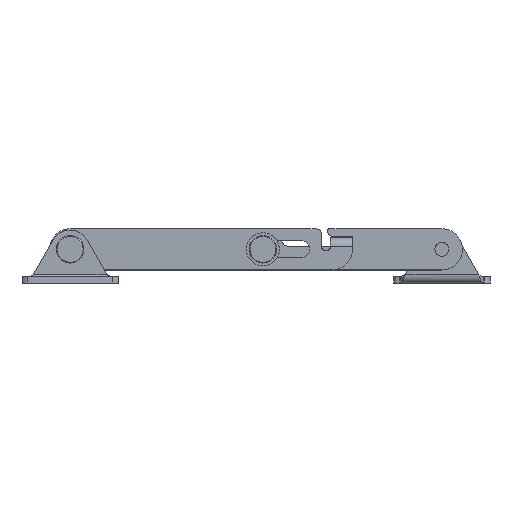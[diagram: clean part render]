
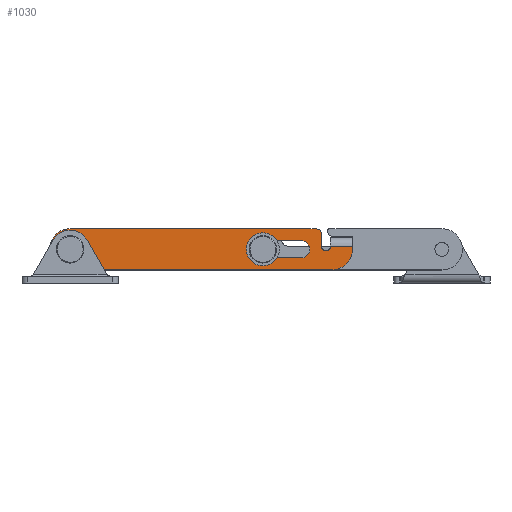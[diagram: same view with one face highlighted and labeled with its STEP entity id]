
A CAD part, top view. The second image highlights one B-rep face of the part: STEP entity #1030.
In plain terms, the highlighted planar face has unit normal (0, 0, 1).
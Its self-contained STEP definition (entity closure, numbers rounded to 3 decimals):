
#15 = VECTOR ( 'NONE', #1727, 1000. ) ;
#38 = LINE ( 'NONE', #2817, #1431 ) ;
#61 = ORIENTED_EDGE ( 'NONE', *, *, #3098, .T. ) ;
#67 = AXIS2_PLACEMENT_3D ( 'NONE', #2873, #1238, #3160 ) ;
#89 = CARTESIAN_POINT ( 'NONE',  ( 2.5, 0., 2.5 ) ) ;
#112 = CARTESIAN_POINT ( 'NONE',  ( 7.502, -102.5, 2.5 ) ) ;
#126 = CARTESIAN_POINT ( 'NONE',  ( -7.5, 0., 2.5 ) ) ;
#145 = DIRECTION ( 'NONE',  ( 0., 0., -1. ) ) ;
#150 = CARTESIAN_POINT ( 'NONE',  ( -7.5, -95., 2.5 ) ) ;
#189 = ORIENTED_EDGE ( 'NONE', *, *, #1532, .T. ) ;
#262 = CARTESIAN_POINT ( 'NONE',  ( 1.002, -94.5, 2.5 ) ) ;
#288 = CARTESIAN_POINT ( 'NONE',  ( 0., 0., 2.5 ) ) ;
#302 = EDGE_CURVE ( 'NONE', #1968, #1908, #3108, .T. ) ;
#329 = VERTEX_POINT ( 'NONE', #763 ) ;
#333 = VERTEX_POINT ( 'NONE', #1596 ) ;
#338 = ORIENTED_EDGE ( 'NONE', *, *, #3500, .F. ) ;
#354 = DIRECTION ( 'NONE',  ( 0., 0., -1. ) ) ;
#399 = EDGE_CURVE ( 'NONE', #2207, #686, #857, .T. ) ;
#414 = CARTESIAN_POINT ( 'NONE',  ( 1.002, -94.5, 2.5 ) ) ;
#465 = DIRECTION ( 'NONE',  ( 0., 0., 1. ) ) ;
#466 = CARTESIAN_POINT ( 'NONE',  ( 0., -84., 2.5 ) ) ;
#481 = CARTESIAN_POINT ( 'NONE',  ( 5.5, -91.3, 2.5 ) ) ;
#483 = DIRECTION ( 'NONE',  ( 0., 0., 1. ) ) ;
#485 = EDGE_CURVE ( 'NONE', #1580, #333, #3390, .T. ) ;
#506 = CARTESIAN_POINT ( 'NONE',  ( 1.002, -91.3, 2.5 ) ) ;
#547 = LINE ( 'NONE', #414, #1173 ) ;
#562 = CARTESIAN_POINT ( 'NONE',  ( 7.5, -89.3, 2.5 ) ) ;
#600 = EDGE_CURVE ( 'NONE', #1646, #2394, #1711, .T. ) ;
#649 = ORIENTED_EDGE ( 'NONE', *, *, #2237, .T. ) ;
#651 = VERTEX_POINT ( 'NONE', #262 ) ;
#661 = LINE ( 'NONE', #2034, #1809 ) ;
#681 = DIRECTION ( 'NONE',  ( 1., 0., 0. ) ) ;
#686 = VERTEX_POINT ( 'NONE', #2728 ) ;
#701 = CARTESIAN_POINT ( 'NONE',  ( -3.1, -68.5, 2.5 ) ) ;
#709 = CARTESIAN_POINT ( 'NONE',  ( -3.1, -84., 2.5 ) ) ;
#749 = CARTESIAN_POINT ( 'NONE',  ( 0., -68.5, 2.5 ) ) ;
#763 = CARTESIAN_POINT ( 'NONE',  ( 1.202, -94.5, 2.5 ) ) ;
#767 = AXIS2_PLACEMENT_3D ( 'NONE', #288, #465, #2387 ) ;
#791 = CARTESIAN_POINT ( 'NONE',  ( 3.1, -84., 2.5 ) ) ;
#799 = CIRCLE ( 'NONE', #2329, 2. ) ;
#836 = CIRCLE ( 'NONE', #767, 2.5 ) ;
#850 = CIRCLE ( 'NONE', #67, 1.6 ) ;
#857 = LINE ( 'NONE', #2259, #15 ) ;
#914 = AXIS2_PLACEMENT_3D ( 'NONE', #2710, #1075, #2995 ) ;
#919 = VERTEX_POINT ( 'NONE', #709 ) ;
#954 = DIRECTION ( 'NONE',  ( 0., -1., 0. ) ) ;
#957 = ORIENTED_EDGE ( 'NONE', *, *, #3550, .F. ) ;
#1011 = DIRECTION ( 'NONE',  ( 1., 0., 0. ) ) ;
#1020 = AXIS2_PLACEMENT_3D ( 'NONE', #1536, #145, #2077 ) ;
#1030 = ADVANCED_FACE ( 'NONE', ( #3336, #2019, #1207 ), #2110, .F. ) ;
#1066 = DIRECTION ( 'NONE',  ( 1., 0., 0. ) ) ;
#1067 = VERTEX_POINT ( 'NONE', #2091 ) ;
#1075 = DIRECTION ( 'NONE',  ( 0., 0., 1. ) ) ;
#1081 = AXIS2_PLACEMENT_3D ( 'NONE', #2968, #1335, #3256 ) ;
#1173 = VECTOR ( 'NONE', #1257, 1000. ) ;
#1207 = FACE_BOUND ( 'NONE', #1823, .T. ) ;
#1225 = VERTEX_POINT ( 'NONE', #791 ) ;
#1238 = DIRECTION ( 'NONE',  ( 0., 0., -1. ) ) ;
#1257 = DIRECTION ( 'NONE',  ( -1., 0., 0. ) ) ;
#1274 = VECTOR ( 'NONE', #681, 1000. ) ;
#1323 = DIRECTION ( 'NONE',  ( 1., 0., 0. ) ) ;
#1335 = DIRECTION ( 'NONE',  ( 0., 0., 1. ) ) ;
#1364 = LINE ( 'NONE', #2605, #3379 ) ;
#1405 = CIRCLE ( 'NONE', #914, 7.5 ) ;
#1431 = VECTOR ( 'NONE', #2258, 1000. ) ;
#1449 = CARTESIAN_POINT ( 'NONE',  ( 5.5, -89.3, 2.5 ) ) ;
#1532 = EDGE_CURVE ( 'NONE', #1892, #3393, #1364, .T. ) ;
#1536 = CARTESIAN_POINT ( 'NONE',  ( 0., -95., 2.5 ) ) ;
#1550 = EDGE_CURVE ( 'NONE', #329, #651, #547, .T. ) ;
#1580 = VERTEX_POINT ( 'NONE', #1803 ) ;
#1596 = CARTESIAN_POINT ( 'NONE',  ( 1.202, -102.5, 2.5 ) ) ;
#1646 = VERTEX_POINT ( 'NONE', #3205 ) ;
#1672 = CIRCLE ( 'NONE', #3010, 7.5 ) ;
#1673 = EDGE_CURVE ( 'NONE', #686, #1892, #1672, .T. ) ;
#1711 = LINE ( 'NONE', #506, #1871 ) ;
#1726 = DIRECTION ( 'NONE',  ( -1., 0., 0. ) ) ;
#1727 = DIRECTION ( 'NONE',  ( 0., 1., 0. ) ) ;
#1734 = EDGE_CURVE ( 'NONE', #3393, #1580, #1405, .T. ) ;
#1803 = CARTESIAN_POINT ( 'NONE',  ( 0., -102.5, 2.5 ) ) ;
#1809 = VECTOR ( 'NONE', #954, 1000. ) ;
#1823 = EDGE_LOOP ( 'NONE', ( #2335, #2007 ) ) ;
#1871 = VECTOR ( 'NONE', #1066, 1000. ) ;
#1892 = VERTEX_POINT ( 'NONE', #126 ) ;
#1908 = VERTEX_POINT ( 'NONE', #701 ) ;
#1950 = AXIS2_PLACEMENT_3D ( 'NONE', #749, #2653, #1011 ) ;
#1968 = VERTEX_POINT ( 'NONE', #2924 ) ;
#2000 = CARTESIAN_POINT ( 'NONE',  ( 1.012, -92.9, 2.5 ) ) ;
#2007 = ORIENTED_EDGE ( 'NONE', *, *, #2567, .F. ) ;
#2019 = FACE_BOUND ( 'NONE', #2475, .T. ) ;
#2034 = CARTESIAN_POINT ( 'NONE',  ( 1.202, -95., 2.5 ) ) ;
#2073 = EDGE_CURVE ( 'NONE', #3270, #2464, #3462, .T. ) ;
#2077 = DIRECTION ( 'NONE',  ( -1., 0., 0. ) ) ;
#2091 = CARTESIAN_POINT ( 'NONE',  ( -0.588, -92.9, 2.5 ) ) ;
#2102 = ORIENTED_EDGE ( 'NONE', *, *, #1734, .T. ) ;
#2110 = PLANE ( 'NONE',  #1020 ) ;
#2126 = CARTESIAN_POINT ( 'NONE',  ( 0., 0., 2.5 ) ) ;
#2160 = ORIENTED_EDGE ( 'NONE', *, *, #399, .T. ) ;
#2207 = VERTEX_POINT ( 'NONE', #562 ) ;
#2237 = EDGE_CURVE ( 'NONE', #1067, #1646, #850, .T. ) ;
#2243 = CIRCLE ( 'NONE', #3452, 1.6 ) ;
#2258 = DIRECTION ( 'NONE',  ( 0., -1., 0. ) ) ;
#2259 = CARTESIAN_POINT ( 'NONE',  ( 7.5, -89.3, 2.5 ) ) ;
#2277 = DIRECTION ( 'NONE',  ( 1., 0., 0. ) ) ;
#2280 = CIRCLE ( 'NONE', #3457, 3.1 ) ;
#2329 = AXIS2_PLACEMENT_3D ( 'NONE', #1449, #3370, #1726 ) ;
#2335 = ORIENTED_EDGE ( 'NONE', *, *, #2073, .F. ) ;
#2387 = DIRECTION ( 'NONE',  ( 1., 0., 0. ) ) ;
#2388 = DIRECTION ( 'NONE',  ( 0., 0., 1. ) ) ;
#2394 = VERTEX_POINT ( 'NONE', #481 ) ;
#2404 = DIRECTION ( 'NONE',  ( 1., 0., 0. ) ) ;
#2425 = CARTESIAN_POINT ( 'NONE',  ( -2.5, 0., 2.5 ) ) ;
#2435 = ORIENTED_EDGE ( 'NONE', *, *, #3151, .T. ) ;
#2464 = VERTEX_POINT ( 'NONE', #2425 ) ;
#2475 = EDGE_LOOP ( 'NONE', ( #957, #338, #2522, #2485 ) ) ;
#2485 = ORIENTED_EDGE ( 'NONE', *, *, #302, .F. ) ;
#2522 = ORIENTED_EDGE ( 'NONE', *, *, #3166, .F. ) ;
#2555 = ORIENTED_EDGE ( 'NONE', *, *, #1550, .T. ) ;
#2567 = EDGE_CURVE ( 'NONE', #2464, #3270, #836, .T. ) ;
#2599 = ORIENTED_EDGE ( 'NONE', *, *, #2887, .F. ) ;
#2605 = CARTESIAN_POINT ( 'NONE',  ( -7.5, 0., 2.5 ) ) ;
#2653 = DIRECTION ( 'NONE',  ( 0., 0., 1. ) ) ;
#2710 = CARTESIAN_POINT ( 'NONE',  ( 0., -95., 2.5 ) ) ;
#2728 = CARTESIAN_POINT ( 'NONE',  ( 7.5, 0., 2.5 ) ) ;
#2740 = VECTOR ( 'NONE', #3125, 1000. ) ;
#2814 = LINE ( 'NONE', #2846, #2740 ) ;
#2817 = CARTESIAN_POINT ( 'NONE',  ( -3.1, -84., 2.5 ) ) ;
#2846 = CARTESIAN_POINT ( 'NONE',  ( 3.1, -84., 2.5 ) ) ;
#2873 = CARTESIAN_POINT ( 'NONE',  ( 1.012, -92.9, 2.5 ) ) ;
#2887 = EDGE_CURVE ( 'NONE', #329, #333, #661, .T. ) ;
#2924 = CARTESIAN_POINT ( 'NONE',  ( 3.1, -68.5, 2.5 ) ) ;
#2929 = EDGE_LOOP ( 'NONE', ( #2599, #2555, #2435, #649, #3434, #61, #2160, #3489, #189, #2102, #2939 ) ) ;
#2939 = ORIENTED_EDGE ( 'NONE', *, *, #485, .T. ) ;
#2968 = CARTESIAN_POINT ( 'NONE',  ( 0., 0., 2.5 ) ) ;
#2995 = DIRECTION ( 'NONE',  ( -1., 0., 0. ) ) ;
#3010 = AXIS2_PLACEMENT_3D ( 'NONE', #2126, #483, #2404 ) ;
#3098 = EDGE_CURVE ( 'NONE', #2394, #2207, #799, .T. ) ;
#3108 = CIRCLE ( 'NONE', #1950, 3.1 ) ;
#3125 = DIRECTION ( 'NONE',  ( 0., 1., 0. ) ) ;
#3151 = EDGE_CURVE ( 'NONE', #651, #1067, #2243, .T. ) ;
#3160 = DIRECTION ( 'NONE',  ( 1., 0., 0. ) ) ;
#3166 = EDGE_CURVE ( 'NONE', #1908, #919, #38, .T. ) ;
#3205 = CARTESIAN_POINT ( 'NONE',  ( 1.002, -91.3, 2.5 ) ) ;
#3256 = DIRECTION ( 'NONE',  ( 1., 0., 0. ) ) ;
#3270 = VERTEX_POINT ( 'NONE', #89 ) ;
#3336 = FACE_OUTER_BOUND ( 'NONE', #2929, .T. ) ;
#3370 = DIRECTION ( 'NONE',  ( 0., 0., 1. ) ) ;
#3379 = VECTOR ( 'NONE', #3455, 1000. ) ;
#3390 = LINE ( 'NONE', #112, #1274 ) ;
#3393 = VERTEX_POINT ( 'NONE', #150 ) ;
#3434 = ORIENTED_EDGE ( 'NONE', *, *, #600, .T. ) ;
#3452 = AXIS2_PLACEMENT_3D ( 'NONE', #2000, #354, #2277 ) ;
#3455 = DIRECTION ( 'NONE',  ( 0., -1., 0. ) ) ;
#3457 = AXIS2_PLACEMENT_3D ( 'NONE', #466, #2388, #1323 ) ;
#3462 = CIRCLE ( 'NONE', #1081, 2.5 ) ;
#3489 = ORIENTED_EDGE ( 'NONE', *, *, #1673, .T. ) ;
#3500 = EDGE_CURVE ( 'NONE', #919, #1225, #2280, .T. ) ;
#3550 = EDGE_CURVE ( 'NONE', #1225, #1968, #2814, .T. ) ;
